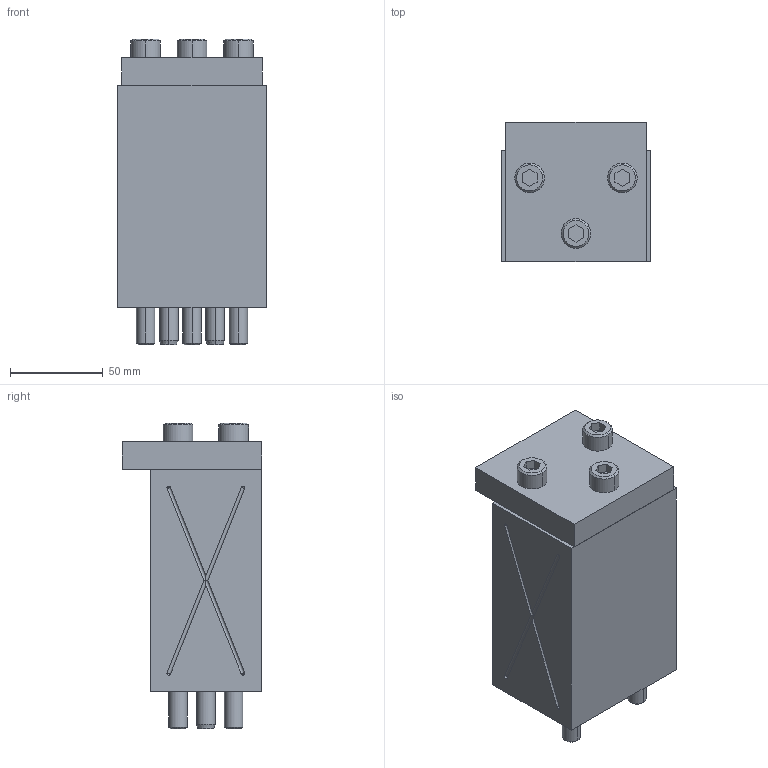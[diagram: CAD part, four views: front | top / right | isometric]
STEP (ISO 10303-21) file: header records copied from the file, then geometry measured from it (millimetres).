
FILE_DESCRIPTION((''),'2;1');
FILE_NAME('','2010-09-29T17:40:17+09:00',('misumi'),(''),'M/STEP i/f 1R2-14','CADmeister v5.1','');
FILE_SCHEMA(('AUTOMOTIVE_DESIGN'));
Length unit declared in the file: millimetre
Products named in the file (1): KEPNZ80-120-15
Bounding box: 80 x 75 x 165 mm (x, y, z)
Volume: 583248 mm3; surface area: 106618.7 mm2
Topology: 10 solids, 10 shells, 206 faces, 472 edges, 299 vertices
Faces by surface type: plane 86, cylinder 76, cone 32, revolution 12
Entity records: 8686 total; most frequent: DIRECTION 1068, CARTESIAN_POINT 1056, ORIENTED_EDGE 920, COLOUR_RGB 628, CURVE_STYLE 547, PRESENTATION_STYLE_ASSIGNMENT 537, OVER_RIDING_STYLED_ITEM 527, EDGE_CURVE 460
